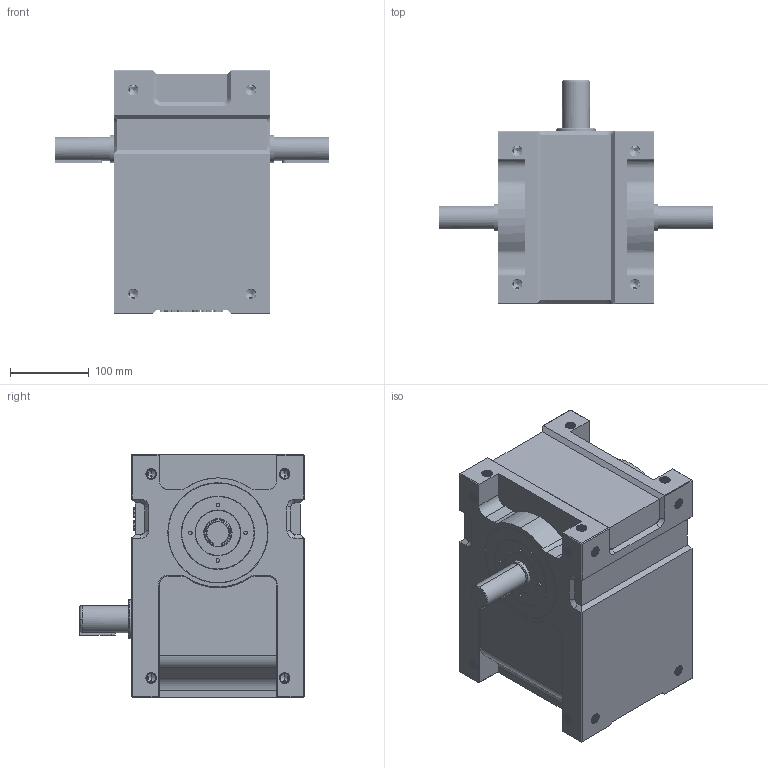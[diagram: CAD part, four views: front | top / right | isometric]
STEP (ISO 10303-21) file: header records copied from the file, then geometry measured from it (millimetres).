
FILE_DESCRIPTION (( 'STEP AP214' ), '1' );
FILE_NAME ('ER-RU110DS英锐凸轮分割器3D标准图纸(电话15062628977)AA.STEP', '2022-10-19T04:07:02', ( '微软用户' ), ( '微软中国' ), 'SwSTEP 2.0', 'SolidWorks 2017', '' );
FILE_SCHEMA (( 'AUTOMOTIVE_DESIGN' ));
Length unit declared in the file: millimetre
Products named in the file (1): ER-RU110DS英锐凸轮分割器3D标准图纸(电话15062628977)AA
Bounding box: 350 x 286 x 310 mm (x, y, z)
Volume: 12544487 mm3; surface area: 410065.6 mm2
Topology: 1 solids, 1 shells, 1648 faces, 4639 edges, 3033 vertices
Faces by surface type: cylinder 632, plane 435, bspline 423, cone 153, torus 5
Entity records: 194474 total; most frequent: CARTESIAN_POINT 158925, ORIENTED_EDGE 9182, EDGE_CURVE 4591, DIRECTION 4555, VERTEX_POINT 3033, B_SPLINE_CURVE_WITH_KNOTS 2021, EDGE_LOOP 1784, LINE 1759
